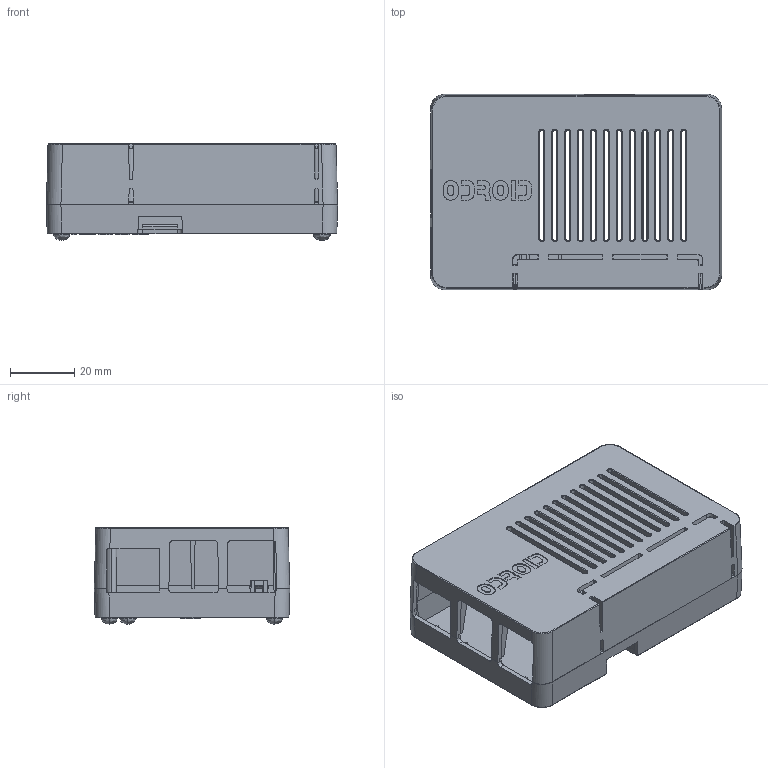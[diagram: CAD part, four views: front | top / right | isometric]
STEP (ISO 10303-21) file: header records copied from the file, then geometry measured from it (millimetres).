
FILE_DESCRIPTION (( 'STEP AP214' ), '1' );
FILE_NAME ('CASE_4_ASM.STEP', '2015-07-20T08:09:47', ( '' ), ( '' ), 'SwSTEP 2.0', 'SolidWorks 2013', '' );
FILE_SCHEMA (( 'AUTOMOTIVE_DESIGN' ));
Length unit declared in the file: millimetre
Products named in the file (3): CASE_4_BOTTOM_COVER_晦獄 撲薑; CASE_4_TOP_COVER_晦獄 撲薑; CASE_4_ASM
Assembly tree (2 placements, depth 2):
  CASE_4_ASM
    CASE_4_TOP_COVER_晦獄 撲薑
    CASE_4_BOTTOM_COVER_晦獄 撲薑
Bounding box: 90.3 x 60.6 x 30 mm (x, y, z)
Volume: 24619.8 mm3; surface area: 37825.1 mm2
Topology: 2 solids, 2 shells, 949 faces, 2752 edges, 1818 vertices
Faces by surface type: plane 540, cylinder 151, bspline 124, cone 82, torus 52
Entity records: 34112 total; most frequent: CARTESIAN_POINT 9788, ORIENTED_EDGE 5488, DIRECTION 4184, EDGE_CURVE 2744, VERTEX_POINT 1818, VECTOR 1814, LINE 1814, AXIS2_PLACEMENT_3D 1185
